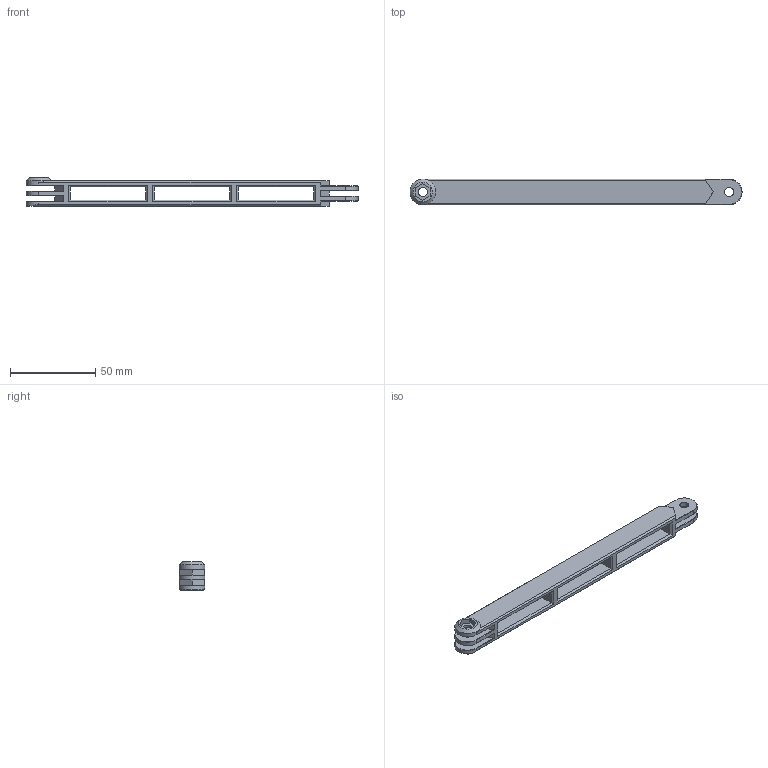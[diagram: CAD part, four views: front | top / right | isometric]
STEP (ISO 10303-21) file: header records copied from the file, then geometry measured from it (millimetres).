
FILE_DESCRIPTION(/* description */ ('STEP AP214'),/* implementation_level */ '2;1');
FILE_NAME(/* name */ '60a1471525d25912eeacb4f3',/* time_stamp */ '2021-05-16T16:23:50+00:00',/* author */ (''),/* organization */ (''),/* preprocessor_version */ 'ST-DEVELOPER v18.1',/* originating_system */ ' ',/* authorisation */ ' ');
FILE_SCHEMA (('AUTOMOTIVE_DESIGN {1 0 10303 214 3 1 1}'));
Length unit declared in the file: metre
Products named in the file (1): Arm Straight
Bounding box: 195 x 15 x 16.8 mm (x, y, z)
Volume: 22419 mm3; surface area: 14847.9 mm2
Topology: 1 solids, 1 shells, 116 faces, 302 edges, 189 vertices
Faces by surface type: plane 96, cylinder 10, cone 10
Full cylindrical faces by diameter (mm): 5.3 x5
Entity records: 3445 total; most frequent: CARTESIAN_POINT 596, ORIENTED_EDGE 580, DIRECTION 557, EDGE_CURVE 290, LINE 253, VECTOR 253, VERTEX_POINT 183, AXIS2_PLACEMENT_3D 152
